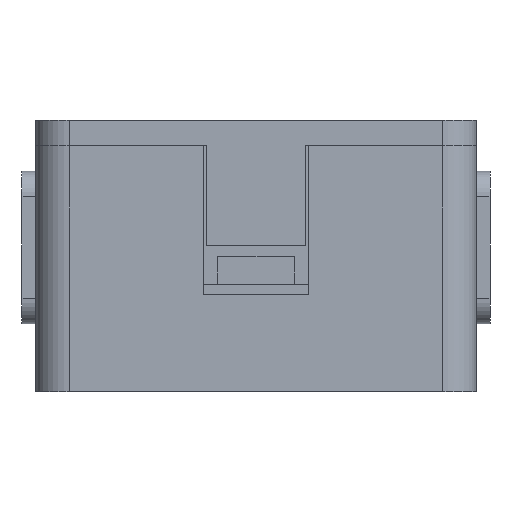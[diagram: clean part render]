
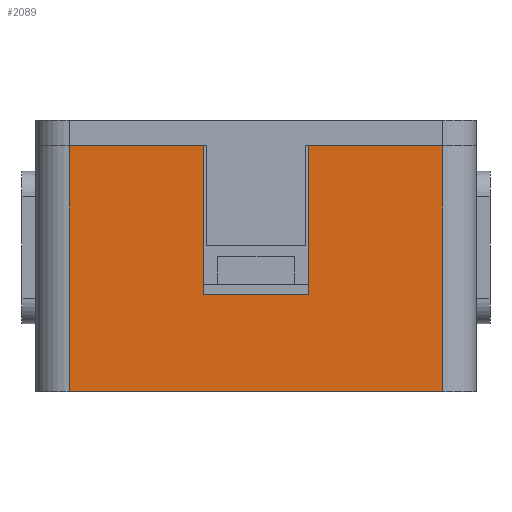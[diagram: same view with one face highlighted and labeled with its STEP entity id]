
A CAD part, left-side view. The second image highlights one B-rep face of the part: STEP entity #2089.
In plain terms, the highlighted planar face has unit normal (-1, 0, 0).
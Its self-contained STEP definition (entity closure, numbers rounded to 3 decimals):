
#98 = PLANE('',#99);
#99 = AXIS2_PLACEMENT_3D('',#100,#101,#102);
#100 = CARTESIAN_POINT('',(0.,0.,0.));
#101 = DIRECTION('',(0.,0.,1.));
#102 = DIRECTION('',(1.,0.,-0.));
#126 = CYLINDRICAL_SURFACE('',#127,4.);
#127 = AXIS2_PLACEMENT_3D('',#128,#129,#130);
#128 = CARTESIAN_POINT('',(-27.,-22.,0.));
#129 = DIRECTION('',(0.,0.,1.));
#130 = DIRECTION('',(0.,-1.,0.));
#154 = PLANE('',#155);
#155 = AXIS2_PLACEMENT_3D('',#156,#157,#158);
#156 = CARTESIAN_POINT('',(0.,0.,29.));
#157 = DIRECTION('',(0.,0.,1.));
#158 = DIRECTION('',(1.,0.,-0.));
#641 = VERTEX_POINT('',#642);
#642 = CARTESIAN_POINT('',(-31.,22.,0.));
#657 = CYLINDRICAL_SURFACE('',#658,4.);
#658 = AXIS2_PLACEMENT_3D('',#659,#660,#661);
#659 = CARTESIAN_POINT('',(-27.,22.,0.));
#660 = DIRECTION('',(0.,0.,1.));
#661 = DIRECTION('',(-0.,1.,0.));
#669 = EDGE_CURVE('',#641,#670,#672,.T.);
#670 = VERTEX_POINT('',#671);
#671 = CARTESIAN_POINT('',(-31.,-22.,0.));
#672 = SURFACE_CURVE('',#673,(#677,#684),.PCURVE_S1.);
#673 = LINE('',#674,#675);
#674 = CARTESIAN_POINT('',(-31.,26.,0.));
#675 = VECTOR('',#676,1.);
#676 = DIRECTION('',(0.,-1.,0.));
#677 = PCURVE('',#98,#678);
#678 = DEFINITIONAL_REPRESENTATION('',(#679),#683);
#679 = LINE('',#680,#681);
#680 = CARTESIAN_POINT('',(-31.,26.));
#681 = VECTOR('',#682,1.);
#682 = DIRECTION('',(0.,-1.));
#683 = ( GEOMETRIC_REPRESENTATION_CONTEXT(2) 
PARAMETRIC_REPRESENTATION_CONTEXT() REPRESENTATION_CONTEXT('2D SPACE',''
  ) );
#684 = PCURVE('',#685,#690);
#685 = PLANE('',#686);
#686 = AXIS2_PLACEMENT_3D('',#687,#688,#689);
#687 = CARTESIAN_POINT('',(-31.,26.,0.));
#688 = DIRECTION('',(1.,0.,-0.));
#689 = DIRECTION('',(0.,-1.,0.));
#690 = DEFINITIONAL_REPRESENTATION('',(#691),#695);
#691 = LINE('',#692,#693);
#692 = CARTESIAN_POINT('',(0.,0.));
#693 = VECTOR('',#694,1.);
#694 = DIRECTION('',(1.,0.));
#695 = ( GEOMETRIC_REPRESENTATION_CONTEXT(2) 
PARAMETRIC_REPRESENTATION_CONTEXT() REPRESENTATION_CONTEXT('2D SPACE',''
  ) );
#727 = EDGE_CURVE('',#670,#728,#730,.T.);
#728 = VERTEX_POINT('',#729);
#729 = CARTESIAN_POINT('',(-31.,-22.,29.));
#730 = SURFACE_CURVE('',#731,(#735,#742),.PCURVE_S1.);
#731 = LINE('',#732,#733);
#732 = CARTESIAN_POINT('',(-31.,-22.,0.));
#733 = VECTOR('',#734,1.);
#734 = DIRECTION('',(0.,0.,1.));
#735 = PCURVE('',#126,#736);
#736 = DEFINITIONAL_REPRESENTATION('',(#737),#741);
#737 = LINE('',#738,#739);
#738 = CARTESIAN_POINT('',(-1.571,0.));
#739 = VECTOR('',#740,1.);
#740 = DIRECTION('',(-0.,1.));
#741 = ( GEOMETRIC_REPRESENTATION_CONTEXT(2) 
PARAMETRIC_REPRESENTATION_CONTEXT() REPRESENTATION_CONTEXT('2D SPACE',''
  ) );
#742 = PCURVE('',#685,#743);
#743 = DEFINITIONAL_REPRESENTATION('',(#744),#748);
#744 = LINE('',#745,#746);
#745 = CARTESIAN_POINT('',(48.,0.));
#746 = VECTOR('',#747,1.);
#747 = DIRECTION('',(0.,-1.));
#748 = ( GEOMETRIC_REPRESENTATION_CONTEXT(2) 
PARAMETRIC_REPRESENTATION_CONTEXT() REPRESENTATION_CONTEXT('2D SPACE',''
  ) );
#942 = VERTEX_POINT('',#943);
#943 = CARTESIAN_POINT('',(-31.,-6.2,29.));
#957 = PLANE('',#958);
#958 = AXIS2_PLACEMENT_3D('',#959,#960,#961);
#959 = CARTESIAN_POINT('',(-34.,-6.2,11.4));
#960 = DIRECTION('',(0.,1.,0.));
#961 = DIRECTION('',(0.,0.,1.));
#968 = EDGE_CURVE('',#942,#728,#969,.T.);
#969 = SURFACE_CURVE('',#970,(#974,#981),.PCURVE_S1.);
#970 = LINE('',#971,#972);
#971 = CARTESIAN_POINT('',(-31.,26.,29.));
#972 = VECTOR('',#973,1.);
#973 = DIRECTION('',(0.,-1.,0.));
#974 = PCURVE('',#154,#975);
#975 = DEFINITIONAL_REPRESENTATION('',(#976),#980);
#976 = LINE('',#977,#978);
#977 = CARTESIAN_POINT('',(-31.,26.));
#978 = VECTOR('',#979,1.);
#979 = DIRECTION('',(0.,-1.));
#980 = ( GEOMETRIC_REPRESENTATION_CONTEXT(2) 
PARAMETRIC_REPRESENTATION_CONTEXT() REPRESENTATION_CONTEXT('2D SPACE',''
  ) );
#981 = PCURVE('',#685,#982);
#982 = DEFINITIONAL_REPRESENTATION('',(#983),#987);
#983 = LINE('',#984,#985);
#984 = CARTESIAN_POINT('',(0.,-29.));
#985 = VECTOR('',#986,1.);
#986 = DIRECTION('',(1.,0.));
#987 = ( GEOMETRIC_REPRESENTATION_CONTEXT(2) 
PARAMETRIC_REPRESENTATION_CONTEXT() REPRESENTATION_CONTEXT('2D SPACE',''
  ) );
#2089 = ADVANCED_FACE('',(#2090),#685,.F.);
#2090 = FACE_BOUND('',#2091,.F.);
#2091 = EDGE_LOOP('',(#2092,#2093,#2116,#2144,#2170,#2196,#2215,#2216));
#2092 = ORIENTED_EDGE('',*,*,#669,.F.);
#2093 = ORIENTED_EDGE('',*,*,#2094,.T.);
#2094 = EDGE_CURVE('',#641,#2095,#2097,.T.);
#2095 = VERTEX_POINT('',#2096);
#2096 = CARTESIAN_POINT('',(-31.,22.,29.));
#2097 = SURFACE_CURVE('',#2098,(#2102,#2109),.PCURVE_S1.);
#2098 = LINE('',#2099,#2100);
#2099 = CARTESIAN_POINT('',(-31.,22.,0.));
#2100 = VECTOR('',#2101,1.);
#2101 = DIRECTION('',(0.,0.,1.));
#2102 = PCURVE('',#685,#2103);
#2103 = DEFINITIONAL_REPRESENTATION('',(#2104),#2108);
#2104 = LINE('',#2105,#2106);
#2105 = CARTESIAN_POINT('',(4.,0.));
#2106 = VECTOR('',#2107,1.);
#2107 = DIRECTION('',(0.,-1.));
#2108 = ( GEOMETRIC_REPRESENTATION_CONTEXT(2) 
PARAMETRIC_REPRESENTATION_CONTEXT() REPRESENTATION_CONTEXT('2D SPACE',''
  ) );
#2109 = PCURVE('',#657,#2110);
#2110 = DEFINITIONAL_REPRESENTATION('',(#2111),#2115);
#2111 = LINE('',#2112,#2113);
#2112 = CARTESIAN_POINT('',(1.571,0.));
#2113 = VECTOR('',#2114,1.);
#2114 = DIRECTION('',(0.,1.));
#2115 = ( GEOMETRIC_REPRESENTATION_CONTEXT(2) 
PARAMETRIC_REPRESENTATION_CONTEXT() REPRESENTATION_CONTEXT('2D SPACE',''
  ) );
#2116 = ORIENTED_EDGE('',*,*,#2117,.T.);
#2117 = EDGE_CURVE('',#2095,#2118,#2120,.T.);
#2118 = VERTEX_POINT('',#2119);
#2119 = CARTESIAN_POINT('',(-31.,6.2,29.));
#2120 = SURFACE_CURVE('',#2121,(#2125,#2132),.PCURVE_S1.);
#2121 = LINE('',#2122,#2123);
#2122 = CARTESIAN_POINT('',(-31.,26.,29.));
#2123 = VECTOR('',#2124,1.);
#2124 = DIRECTION('',(0.,-1.,0.));
#2125 = PCURVE('',#685,#2126);
#2126 = DEFINITIONAL_REPRESENTATION('',(#2127),#2131);
#2127 = LINE('',#2128,#2129);
#2128 = CARTESIAN_POINT('',(0.,-29.));
#2129 = VECTOR('',#2130,1.);
#2130 = DIRECTION('',(1.,0.));
#2131 = ( GEOMETRIC_REPRESENTATION_CONTEXT(2) 
PARAMETRIC_REPRESENTATION_CONTEXT() REPRESENTATION_CONTEXT('2D SPACE',''
  ) );
#2132 = PCURVE('',#2133,#2138);
#2133 = PLANE('',#2134);
#2134 = AXIS2_PLACEMENT_3D('',#2135,#2136,#2137);
#2135 = CARTESIAN_POINT('',(0.,0.,29.));
#2136 = DIRECTION('',(0.,0.,1.));
#2137 = DIRECTION('',(1.,0.,-0.));
#2138 = DEFINITIONAL_REPRESENTATION('',(#2139),#2143);
#2139 = LINE('',#2140,#2141);
#2140 = CARTESIAN_POINT('',(-31.,26.));
#2141 = VECTOR('',#2142,1.);
#2142 = DIRECTION('',(0.,-1.));
#2143 = ( GEOMETRIC_REPRESENTATION_CONTEXT(2) 
PARAMETRIC_REPRESENTATION_CONTEXT() REPRESENTATION_CONTEXT('2D SPACE',''
  ) );
#2144 = ORIENTED_EDGE('',*,*,#2145,.F.);
#2145 = EDGE_CURVE('',#2146,#2118,#2148,.T.);
#2146 = VERTEX_POINT('',#2147);
#2147 = CARTESIAN_POINT('',(-31.,6.2,11.4));
#2148 = SURFACE_CURVE('',#2149,(#2153,#2159),.PCURVE_S1.);
#2149 = LINE('',#2150,#2151);
#2150 = CARTESIAN_POINT('',(-31.,6.2,5.7));
#2151 = VECTOR('',#2152,1.);
#2152 = DIRECTION('',(0.,-0.,1.));
#2153 = PCURVE('',#685,#2154);
#2154 = DEFINITIONAL_REPRESENTATION('',(#2155),#2158);
#2155 = B_SPLINE_CURVE_WITH_KNOTS('',1,(#2156,#2157),.UNSPECIFIED.,.F.,
  .F.,(2,2),(5.7,23.3),.PIECEWISE_BEZIER_KNOTS.);
#2156 = CARTESIAN_POINT('',(19.8,-11.4));
#2157 = CARTESIAN_POINT('',(19.8,-29.));
#2158 = ( GEOMETRIC_REPRESENTATION_CONTEXT(2) 
PARAMETRIC_REPRESENTATION_CONTEXT() REPRESENTATION_CONTEXT('2D SPACE',''
  ) );
#2159 = PCURVE('',#2160,#2165);
#2160 = PLANE('',#2161);
#2161 = AXIS2_PLACEMENT_3D('',#2162,#2163,#2164);
#2162 = CARTESIAN_POINT('',(-34.,6.2,11.4));
#2163 = DIRECTION('',(0.,1.,0.));
#2164 = DIRECTION('',(0.,0.,1.));
#2165 = DEFINITIONAL_REPRESENTATION('',(#2166),#2169);
#2166 = B_SPLINE_CURVE_WITH_KNOTS('',1,(#2167,#2168),.UNSPECIFIED.,.F.,
  .F.,(2,2),(5.7,23.3),.PIECEWISE_BEZIER_KNOTS.);
#2167 = CARTESIAN_POINT('',(0.,3.));
#2168 = CARTESIAN_POINT('',(17.6,3.));
#2169 = ( GEOMETRIC_REPRESENTATION_CONTEXT(2) 
PARAMETRIC_REPRESENTATION_CONTEXT() REPRESENTATION_CONTEXT('2D SPACE',''
  ) );
#2170 = ORIENTED_EDGE('',*,*,#2171,.T.);
#2171 = EDGE_CURVE('',#2146,#2172,#2174,.T.);
#2172 = VERTEX_POINT('',#2173);
#2173 = CARTESIAN_POINT('',(-31.,-6.2,11.4));
#2174 = SURFACE_CURVE('',#2175,(#2179,#2185),.PCURVE_S1.);
#2175 = LINE('',#2176,#2177);
#2176 = CARTESIAN_POINT('',(-31.,9.9,11.4));
#2177 = VECTOR('',#2178,1.);
#2178 = DIRECTION('',(0.,-1.,0.));
#2179 = PCURVE('',#685,#2180);
#2180 = DEFINITIONAL_REPRESENTATION('',(#2181),#2184);
#2181 = B_SPLINE_CURVE_WITH_KNOTS('',1,(#2182,#2183),.UNSPECIFIED.,.F.,
  .F.,(2,2),(3.7,16.1),.PIECEWISE_BEZIER_KNOTS.);
#2182 = CARTESIAN_POINT('',(19.8,-11.4));
#2183 = CARTESIAN_POINT('',(32.2,-11.4));
#2184 = ( GEOMETRIC_REPRESENTATION_CONTEXT(2) 
PARAMETRIC_REPRESENTATION_CONTEXT() REPRESENTATION_CONTEXT('2D SPACE',''
  ) );
#2185 = PCURVE('',#2186,#2191);
#2186 = PLANE('',#2187);
#2187 = AXIS2_PLACEMENT_3D('',#2188,#2189,#2190);
#2188 = CARTESIAN_POINT('',(-34.,-6.2,11.4));
#2189 = DIRECTION('',(0.,0.,1.));
#2190 = DIRECTION('',(1.,0.,0.));
#2191 = DEFINITIONAL_REPRESENTATION('',(#2192),#2195);
#2192 = B_SPLINE_CURVE_WITH_KNOTS('',1,(#2193,#2194),.UNSPECIFIED.,.F.,
  .F.,(2,2),(3.7,16.1),.PIECEWISE_BEZIER_KNOTS.);
#2193 = CARTESIAN_POINT('',(3.,12.4));
#2194 = CARTESIAN_POINT('',(3.,0.));
#2195 = ( GEOMETRIC_REPRESENTATION_CONTEXT(2) 
PARAMETRIC_REPRESENTATION_CONTEXT() REPRESENTATION_CONTEXT('2D SPACE',''
  ) );
#2196 = ORIENTED_EDGE('',*,*,#2197,.T.);
#2197 = EDGE_CURVE('',#2172,#942,#2198,.T.);
#2198 = SURFACE_CURVE('',#2199,(#2203,#2209),.PCURVE_S1.);
#2199 = LINE('',#2200,#2201);
#2200 = CARTESIAN_POINT('',(-31.,-6.2,5.7));
#2201 = VECTOR('',#2202,1.);
#2202 = DIRECTION('',(0.,-0.,1.));
#2203 = PCURVE('',#685,#2204);
#2204 = DEFINITIONAL_REPRESENTATION('',(#2205),#2208);
#2205 = B_SPLINE_CURVE_WITH_KNOTS('',1,(#2206,#2207),.UNSPECIFIED.,.F.,
  .F.,(2,2),(5.7,23.3),.PIECEWISE_BEZIER_KNOTS.);
#2206 = CARTESIAN_POINT('',(32.2,-11.4));
#2207 = CARTESIAN_POINT('',(32.2,-29.));
#2208 = ( GEOMETRIC_REPRESENTATION_CONTEXT(2) 
PARAMETRIC_REPRESENTATION_CONTEXT() REPRESENTATION_CONTEXT('2D SPACE',''
  ) );
#2209 = PCURVE('',#957,#2210);
#2210 = DEFINITIONAL_REPRESENTATION('',(#2211),#2214);
#2211 = B_SPLINE_CURVE_WITH_KNOTS('',1,(#2212,#2213),.UNSPECIFIED.,.F.,
  .F.,(2,2),(5.7,23.3),.PIECEWISE_BEZIER_KNOTS.);
#2212 = CARTESIAN_POINT('',(0.,3.));
#2213 = CARTESIAN_POINT('',(17.6,3.));
#2214 = ( GEOMETRIC_REPRESENTATION_CONTEXT(2) 
PARAMETRIC_REPRESENTATION_CONTEXT() REPRESENTATION_CONTEXT('2D SPACE',''
  ) );
#2215 = ORIENTED_EDGE('',*,*,#968,.T.);
#2216 = ORIENTED_EDGE('',*,*,#727,.F.);
